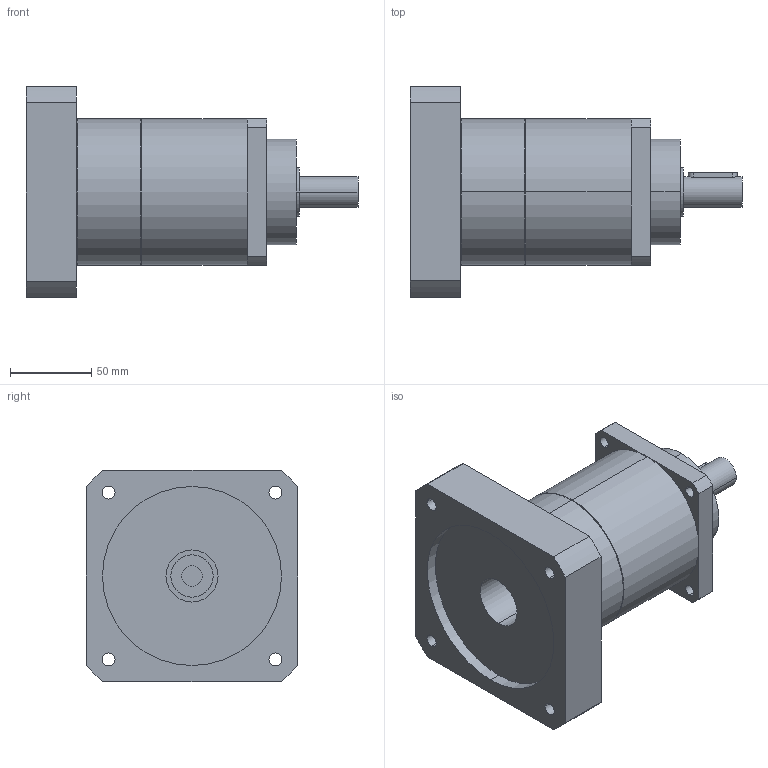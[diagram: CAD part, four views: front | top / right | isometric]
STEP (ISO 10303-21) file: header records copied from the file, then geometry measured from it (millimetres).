
FILE_DESCRIPTION(('CoCreate Modeling STEP Export'),'2;1');
FILE_NAME('GPT90_ig-9-12-16-20-25-28-35-40-50-70-100_19_B5T_12.7_P18.stp','2015-02-04T11:27:34',(''),(''),'CoCreate Modeling STEP processor for AP214 (Solid Model)','CoCreate Modeling 16.00C 25-Feb-2009 (C) Parametric Technology GmbH','');
FILE_SCHEMA(('AUTOMOTIVE_DESIGN { 1 0 10303 214 1 1 1 1 }'));
Length unit declared in the file: millimetre
Products named in the file (2): GPT90_ig-9-12-16-20-25-28-35-40-50-70-100_19_B5T_12.7_P18
Assembly tree (1 placements, depth 2):
  GPT90_ig-9-12-16-20-25-28-35-40-50-70-100_19_B5T_12.7_P18
    GPT90_ig-9-12-16-20-25-28-35-40-50-70-100_19_B5T_12.7_P18
Bounding box: 204 x 130 x 130 mm (x, y, z)
Volume: 1256853.2 mm3; surface area: 102849.9 mm2
Topology: 1 solids, 1 shells, 77 faces, 206 edges, 141 vertices
Faces by surface type: cylinder 46, plane 27, cone 4
Entity records: 2596 total; most frequent: CARTESIAN_POINT 742, ORIENTED_EDGE 412, DIRECTION 324, EDGE_CURVE 206, VERTEX_POINT 141, AXIS2_PLACEMENT_3D 120, EDGE_LOOP 103, VECTOR 84
